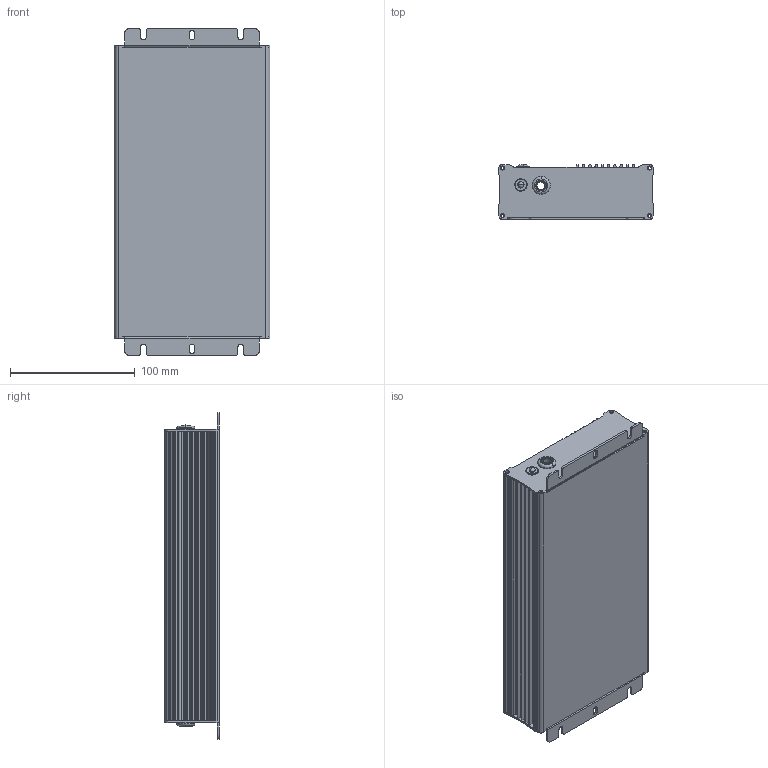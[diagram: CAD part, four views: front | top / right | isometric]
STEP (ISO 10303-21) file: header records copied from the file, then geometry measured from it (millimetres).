
FILE_DESCRIPTION(('Creo Elements/Direct Modeling STEP Export'),'2;1');
FILE_NAME('HEP-480A-O.stp','2017-05-09T10:29:12',(''),(''),'PTC Creo Elements/Direct Modeling STEP processor for AP214 (Solid Model)','PTC Creo Elements/Direct Modeling 19.0 09-May-2014 (C) Parametric Technology GmbH','');
FILE_SCHEMA(('AUTOMOTIVE_DESIGN { 1 0 10303 214 1 1 1 1 }'));
Length unit declared in the file: millimetre
Products named in the file (9): HLG-480H-ATYPE-193980.PRT.1; HLG-480H-ATYPE-193980.PRT; HLG-480H-ATYPE-194310.ASM; TLED-05_w_p____; LED2PIN__; RD1311028___X1; RD1311028ýíÎX1.STEP; TLED-05¿wÙpÙæÏÿ.STEP; HEP-480A-0
Assembly tree (8 placements, depth 5):
  HEP-480A-0
    TLED-05¿wÙpÙæÏÿ.STEP
      RD1311028ýíÎX1.STEP
        RD1311028___X1
          LED2PIN__
      TLED-05_w_p____
    HLG-480H-ATYPE-194310.ASM
      HLG-480H-ATYPE-193980.PRT
      HLG-480H-ATYPE-193980.PRT.1
Bounding box: 125.02 x 44.05 x 262 mm (x, y, z)
Volume: 226834 mm3; surface area: 213150.4 mm2
Topology: 4 solids, 5 shells, 677 faces, 1862 edges, 1217 vertices
Faces by surface type: plane 329, cylinder 272, cone 52, torus 18, sphere 6
Entity records: 27164 total; most frequent: CARTESIAN_POINT 4173, DIRECTION 3852, ORIENTED_EDGE 3712, EDGE_CURVE 1856, AXIS2_PLACEMENT_3D 1434, VERTEX_POINT 1217, VECTOR 984, LINE 984
